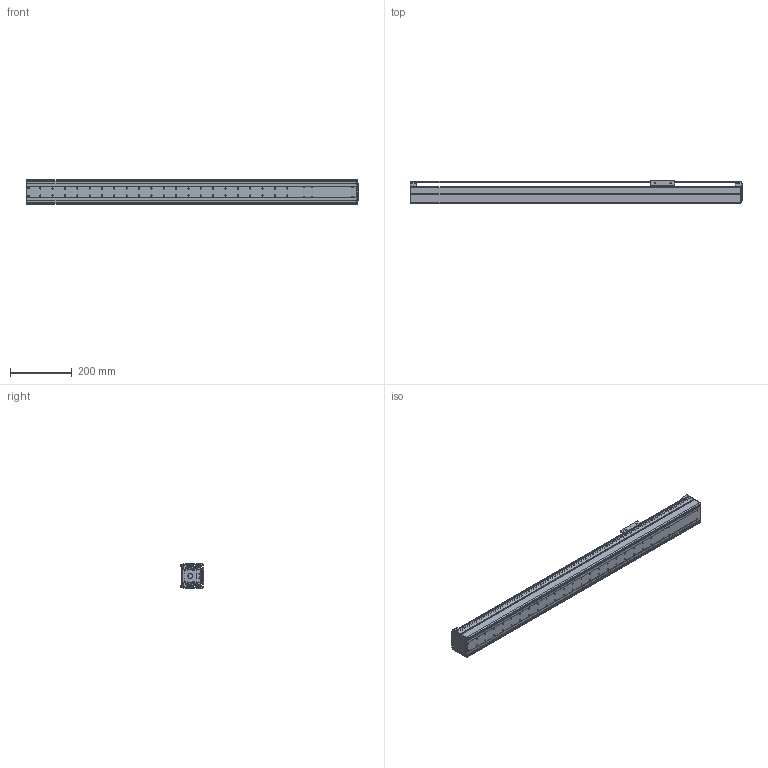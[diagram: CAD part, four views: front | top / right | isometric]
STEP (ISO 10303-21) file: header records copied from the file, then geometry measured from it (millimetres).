
FILE_DESCRIPTION((''),'2;1');
FILE_NAME('BE10E-ST-S_N-75_IGS_PRT','2017-06-17T',(' '),(''),'PRO/ENGINEER BY PARAMETRIC TECHNOLOGY CORPORATION, 2015030','PRO/ENGINEER BY PARAMETRIC TECHNOLOGY CORPORATION, 2015030','');
FILE_SCHEMA(('CONFIG_CONTROL_DESIGN'));
Length unit declared in the file: millimetre
Products named in the file (1): BE10E-ST-S_N-75_IGS_PRT
Bounding box: 1075 x 75 x 78 mm (x, y, z)
Volume: 1207693.1 mm3; surface area: 810002.4 mm2
Topology: 3 solids, 79 shells, 1206 faces, 3233 edges, 2108 vertices
Faces by surface type: cylinder 616, plane 437, torus 64, sphere 42, cone 38, bspline 9
Entity records: 39134 total; most frequent: CARTESIAN_POINT 8101, DIRECTION 6750, ORIENTED_EDGE 6132, EDGE_CURVE 3213, AXIS2_PLACEMENT_3D 2567, VERTEX_POINT 2108, VECTOR 1616, LINE 1616
